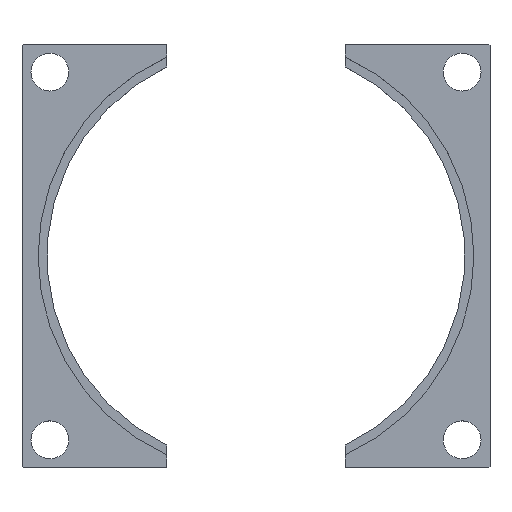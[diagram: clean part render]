
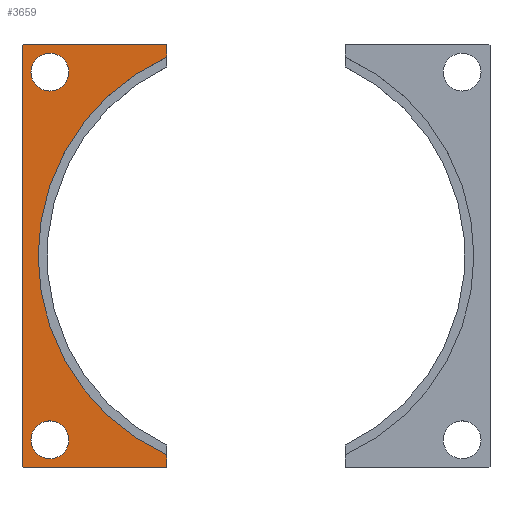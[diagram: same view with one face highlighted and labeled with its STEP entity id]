
A CAD part, top view. The second image highlights one B-rep face of the part: STEP entity #3659.
In plain terms, the highlighted planar face has unit normal (0, 0, 1).
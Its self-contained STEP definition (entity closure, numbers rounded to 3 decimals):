
#28=CIRCLE('',#3795,97.75);
#29=CIRCLE('',#3796,8.5);
#30=CIRCLE('',#3797,8.5);
#57=FACE_BOUND('',#701,.T.);
#58=FACE_BOUND('',#702,.T.);
#488=FACE_OUTER_BOUND('',#700,.T.);
#700=EDGE_LOOP('',(#3253,#3254,#3255,#3256,#3257,#3258,#3259,#3260));
#701=EDGE_LOOP('',(#3261));
#702=EDGE_LOOP('',(#3262));
#1031=LINE('',#6504,#1379);
#1034=LINE('',#6509,#1382);
#1036=LINE('',#6513,#1384);
#1037=LINE('',#6515,#1385);
#1038=LINE('',#6519,#1386);
#1039=LINE('',#6521,#1387);
#1040=LINE('',#6522,#1388);
#1379=VECTOR('',#4308,10.);
#1382=VECTOR('',#4313,10.);
#1384=VECTOR('',#4317,10.);
#1385=VECTOR('',#4318,10.);
#1386=VECTOR('',#4321,10.);
#1387=VECTOR('',#4322,10.);
#1388=VECTOR('',#4323,10.);
#1746=VERTEX_POINT('',#6502);
#1747=VERTEX_POINT('',#6503);
#1748=VERTEX_POINT('',#6508);
#1749=VERTEX_POINT('',#6512);
#1750=VERTEX_POINT('',#6514);
#1751=VERTEX_POINT('',#6516);
#1752=VERTEX_POINT('',#6518);
#1753=VERTEX_POINT('',#6520);
#1754=VERTEX_POINT('',#6523);
#1755=VERTEX_POINT('',#6525);
#2256=EDGE_CURVE('',#1746,#1747,#1031,.T.);
#2259=EDGE_CURVE('',#1747,#1748,#1034,.T.);
#2261=EDGE_CURVE('',#1749,#1746,#1036,.T.);
#2262=EDGE_CURVE('',#1750,#1749,#1037,.T.);
#2263=EDGE_CURVE('',#1750,#1751,#28,.T.);
#2264=EDGE_CURVE('',#1752,#1751,#1038,.T.);
#2265=EDGE_CURVE('',#1753,#1752,#1039,.T.);
#2266=EDGE_CURVE('',#1748,#1753,#1040,.T.);
#2267=EDGE_CURVE('',#1754,#1754,#29,.T.);
#2268=EDGE_CURVE('',#1755,#1755,#30,.T.);
#3253=ORIENTED_EDGE('',*,*,#2256,.F.);
#3254=ORIENTED_EDGE('',*,*,#2261,.F.);
#3255=ORIENTED_EDGE('',*,*,#2262,.F.);
#3256=ORIENTED_EDGE('',*,*,#2263,.T.);
#3257=ORIENTED_EDGE('',*,*,#2264,.F.);
#3258=ORIENTED_EDGE('',*,*,#2265,.F.);
#3259=ORIENTED_EDGE('',*,*,#2266,.F.);
#3260=ORIENTED_EDGE('',*,*,#2259,.F.);
#3261=ORIENTED_EDGE('',*,*,#2267,.T.);
#3262=ORIENTED_EDGE('',*,*,#2268,.T.);
#3471=PLANE('',#3794);
#3659=ADVANCED_FACE('',(#488,#57,#58),#3471,.T.);
#3794=AXIS2_PLACEMENT_3D('',#6511,#4315,#4316);
#3795=AXIS2_PLACEMENT_3D('',#6517,#4319,#4320);
#3796=AXIS2_PLACEMENT_3D('',#6524,#4324,#4325);
#3797=AXIS2_PLACEMENT_3D('',#6526,#4326,#4327);
#4308=DIRECTION('',(-0.707,0.707,0.));
#4313=DIRECTION('',(0.,1.,0.));
#4315=DIRECTION('center_axis',(0.,0.,1.));
#4316=DIRECTION('ref_axis',(1.,0.,0.));
#4317=DIRECTION('',(-1.,0.,0.));
#4318=DIRECTION('',(0.,-1.,0.));
#4319=DIRECTION('center_axis',(0.,0.,-1.));
#4320=DIRECTION('ref_axis',(-1.,0.,0.));
#4321=DIRECTION('',(0.,-1.,0.));
#4322=DIRECTION('',(1.,0.,0.));
#4323=DIRECTION('',(0.707,0.707,0.));
#4324=DIRECTION('center_axis',(0.,0.,-1.));
#4325=DIRECTION('ref_axis',(-1.,0.,0.));
#4326=DIRECTION('center_axis',(0.,0.,-1.));
#4327=DIRECTION('ref_axis',(-1.,0.,0.));
#6502=CARTESIAN_POINT('',(-119.718,-94.649,12.));
#6503=CARTESIAN_POINT('',(-120.218,-94.149,12.));
#6504=CARTESIAN_POINT('',(-137.997,-76.37,12.));
#6508=CARTESIAN_POINT('',(-120.218,94.851,12.));
#6509=CARTESIAN_POINT('',(-120.218,95.351,12.));
#6511=CARTESIAN_POINT('Origin',(-97.335,0.351,12.));
#6512=CARTESIAN_POINT('',(-55.218,-94.649,12.));
#6513=CARTESIAN_POINT('',(-120.218,-94.649,12.));
#6514=CARTESIAN_POINT('',(-55.218,-88.841,12.));
#6515=CARTESIAN_POINT('',(-55.218,-94.649,12.));
#6516=CARTESIAN_POINT('',(-55.218,89.542,12.));
#6517=CARTESIAN_POINT('Origin',(-15.218,0.351,12.));
#6518=CARTESIAN_POINT('',(-55.218,95.351,12.));
#6519=CARTESIAN_POINT('',(-55.218,85.139,12.));
#6520=CARTESIAN_POINT('',(-119.718,95.351,12.));
#6521=CARTESIAN_POINT('',(-55.218,95.351,12.));
#6522=CARTESIAN_POINT('',(-137.997,77.071,12.));
#6523=CARTESIAN_POINT('',(-99.218,-82.149,12.));
#6524=CARTESIAN_POINT('Origin',(-107.718,-82.149,12.));
#6525=CARTESIAN_POINT('',(-99.218,82.851,12.));
#6526=CARTESIAN_POINT('Origin',(-107.718,82.851,12.));
